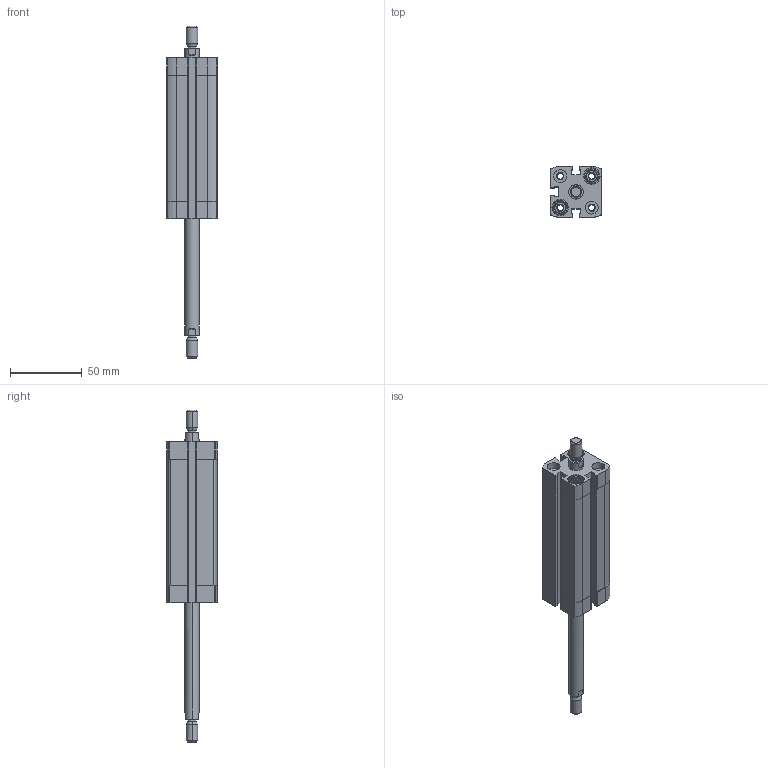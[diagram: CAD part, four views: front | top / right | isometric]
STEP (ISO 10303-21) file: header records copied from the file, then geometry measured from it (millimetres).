
FILE_DESCRIPTION (( 'STEP AP203' ), '1' );
FILE_NAME ('CCN20-75-P.STEP', '2020-06-22T18:41:16', ( '' ), ( '' ), 'SwSTEP 2.0', 'SolidWorks 2019', '' );
FILE_SCHEMA (( 'CONFIG_CONTROL_DESIGN' ));
Length unit declared in the file: millimetre
Products named in the file (1): CCN20-75-P
Bounding box: 35.5 x 35.5 x 231.5 mm (x, y, z)
Volume: 104801.4 mm3; surface area: 45035.4 mm2
Topology: 2 solids, 2 shells, 428 faces, 1120 edges, 728 vertices
Faces by surface type: plane 236, cylinder 140, cone 44, torus 8
Entity records: 13423 total; most frequent: CARTESIAN_POINT 2577, DIRECTION 2314, ORIENTED_EDGE 2240, EDGE_CURVE 1120, AXIS2_PLACEMENT_3D 865, VERTEX_POINT 728, VECTOR 584, LINE 584
